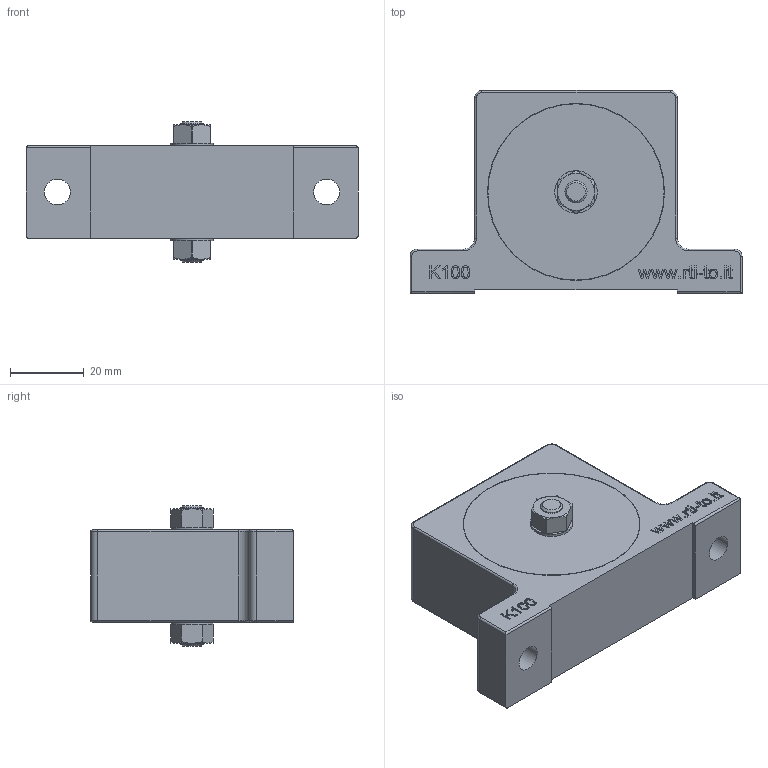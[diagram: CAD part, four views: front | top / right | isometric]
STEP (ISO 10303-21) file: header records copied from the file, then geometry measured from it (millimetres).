
FILE_DESCRIPTION((''),'2;1');
FILE_NAME('D:\UFFICIO TECNICO\PROGETTI PER PROTOTIPI\VIBRATORE - K100\VIBR. K100.stp','2015-09-14T12:17:37',('Piero'),(''),'Autodesk Inventor 2011','Autodesk Inventor 2011','');
FILE_SCHEMA(('CONFIG_CONTROL_DESIGN'));
Length unit declared in the file: millimetre
Products named in the file (1): K100
Bounding box: 90 x 55 x 38 mm (x, y, z)
Volume: 83642.5 mm3; surface area: 16946.9 mm2
Topology: 1 solids, 1 shells, 332 faces, 863 edges, 563 vertices
Faces by surface type: plane 206, bspline 51, cylinder 47, cone 16, torus 12
Full cylindrical faces by diameter (mm): 6 x2, 7 x2, 8.566 x2, 11.5 x2, 47.8 x2, 48 x2
Entity records: 10208 total; most frequent: CARTESIAN_POINT 2449, ORIENTED_EDGE 1674, DIRECTION 1399, EDGE_CURVE 837, VECTOR 583, LINE 583, VERTEX_POINT 553, AXIS2_PLACEMENT_3D 408
